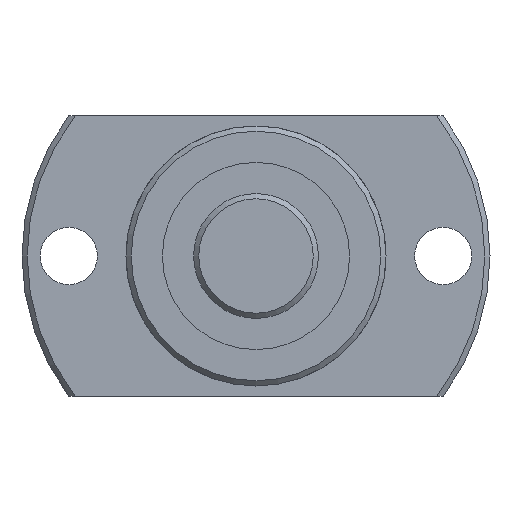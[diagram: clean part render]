
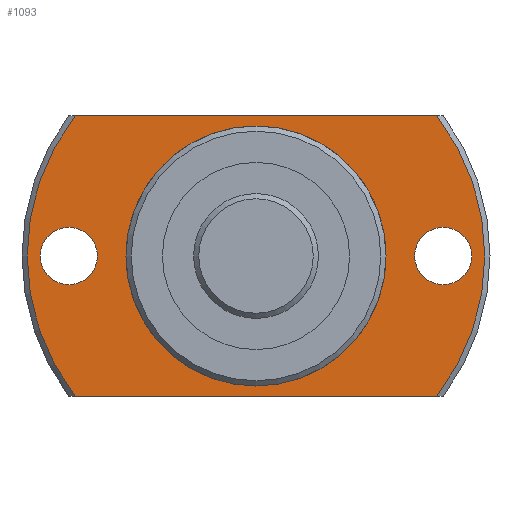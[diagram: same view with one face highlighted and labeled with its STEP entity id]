
A CAD part, left-side view. The second image highlights one B-rep face of the part: STEP entity #1093.
In plain terms, the highlighted planar face has unit normal (-1, 0, 0).
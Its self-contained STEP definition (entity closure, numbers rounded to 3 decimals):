
#110=CIRCLE('',#1212,12.25);
#113=CIRCLE('',#1216,22.);
#119=CIRCLE('',#1227,2.75);
#120=CIRCLE('',#1228,2.75);
#121=CIRCLE('',#1229,22.);
#249=ORIENTED_EDGE('',*,*,#509,.T.);
#250=ORIENTED_EDGE('',*,*,#510,.T.);
#251=ORIENTED_EDGE('',*,*,#498,.F.);
#252=ORIENTED_EDGE('',*,*,#511,.T.);
#253=ORIENTED_EDGE('',*,*,#512,.F.);
#254=ORIENTED_EDGE('',*,*,#513,.T.);
#255=ORIENTED_EDGE('',*,*,#492,.T.);
#492=EDGE_CURVE('',#631,#631,#110,.T.);
#498=EDGE_CURVE('',#636,#637,#113,.T.);
#509=EDGE_CURVE('',#646,#646,#119,.T.);
#510=EDGE_CURVE('',#647,#647,#120,.T.);
#511=EDGE_CURVE('',#636,#648,#721,.T.);
#512=EDGE_CURVE('',#649,#648,#121,.T.);
#513=EDGE_CURVE('',#649,#637,#722,.T.);
#631=VERTEX_POINT('',#1776);
#636=VERTEX_POINT('',#1790);
#637=VERTEX_POINT('',#1792);
#646=VERTEX_POINT('',#1826);
#647=VERTEX_POINT('',#1828);
#648=VERTEX_POINT('',#1830);
#649=VERTEX_POINT('',#1832);
#721=LINE('',#1829,#781);
#722=LINE('',#1833,#782);
#781=VECTOR('',#1464,1000.);
#782=VECTOR('',#1467,1000.);
#861=EDGE_LOOP('',(#249));
#862=EDGE_LOOP('',(#250));
#863=EDGE_LOOP('',(#251,#252,#253,#254));
#864=EDGE_LOOP('',(#255));
#967=FACE_BOUND('',#861,.T.);
#968=FACE_BOUND('',#862,.T.);
#969=FACE_BOUND('',#863,.T.);
#970=FACE_BOUND('',#864,.T.);
#1041=PLANE('',#1226);
#1093=ADVANCED_FACE('',(#967,#968,#969,#970),#1041,.F.);
#1212=AXIS2_PLACEMENT_3D('',#1775,#1426,#1427);
#1216=AXIS2_PLACEMENT_3D('',#1791,#1436,#1437);
#1226=AXIS2_PLACEMENT_3D('',#1824,#1458,#1459);
#1227=AXIS2_PLACEMENT_3D('',#1825,#1460,#1461);
#1228=AXIS2_PLACEMENT_3D('',#1827,#1462,#1463);
#1229=AXIS2_PLACEMENT_3D('',#1831,#1465,#1466);
#1426=DIRECTION('',(1.,0.,0.));
#1427=DIRECTION('',(0.,0.,-1.));
#1436=DIRECTION('',(1.,0.,0.));
#1437=DIRECTION('',(0.,0.,-1.));
#1458=DIRECTION('',(1.,0.,0.));
#1459=DIRECTION('',(0.,0.,-1.));
#1460=DIRECTION('',(1.,0.,0.));
#1461=DIRECTION('',(0.,0.,-1.));
#1462=DIRECTION('',(1.,0.,0.));
#1463=DIRECTION('',(0.,0.,-1.));
#1464=DIRECTION('',(0.,-1.,0.));
#1465=DIRECTION('',(1.,0.,0.));
#1466=DIRECTION('',(0.,0.,-1.));
#1467=DIRECTION('',(0.,1.,0.));
#1775=CARTESIAN_POINT('',(19.,0.,0.));
#1776=CARTESIAN_POINT('',(19.,0.,-12.25));
#1790=CARTESIAN_POINT('',(19.,17.371,-13.5));
#1791=CARTESIAN_POINT('',(19.,0.,0.));
#1792=CARTESIAN_POINT('',(19.,17.371,13.5));
#1824=CARTESIAN_POINT('',(19.,12.25,0.));
#1825=CARTESIAN_POINT('',(19.,-18.,0.));
#1826=CARTESIAN_POINT('',(19.,-18.,-2.75));
#1827=CARTESIAN_POINT('',(19.,18.,0.));
#1828=CARTESIAN_POINT('',(19.,18.,-2.75));
#1829=CARTESIAN_POINT('',(19.,12.25,-13.5));
#1830=CARTESIAN_POINT('',(19.,-17.371,-13.5));
#1831=CARTESIAN_POINT('',(19.,0.,0.));
#1832=CARTESIAN_POINT('',(19.,-17.371,13.5));
#1833=CARTESIAN_POINT('',(19.,12.25,13.5));
